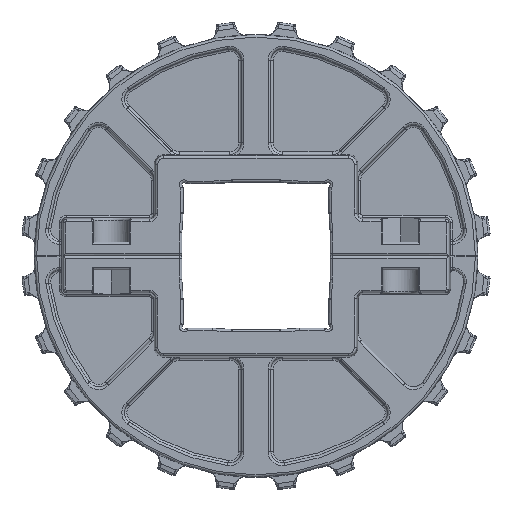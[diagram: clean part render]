
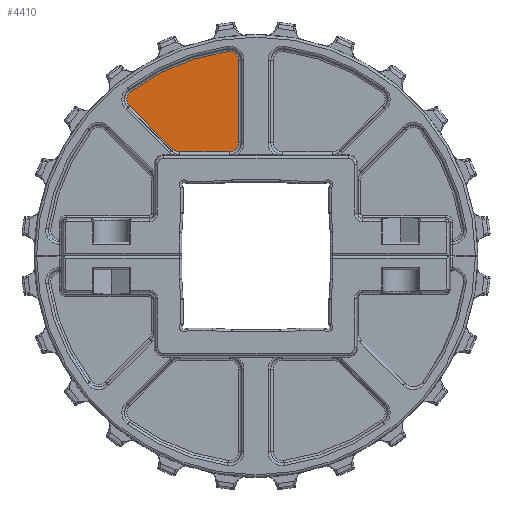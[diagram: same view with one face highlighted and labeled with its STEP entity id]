
A CAD part, top view. The second image highlights one B-rep face of the part: STEP entity #4410.
In plain terms, the highlighted planar face has unit normal (0, 0, 1).
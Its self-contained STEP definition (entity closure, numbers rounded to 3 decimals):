
#2308=FACE_OUTER_BOUND('',#8895,.T.);
#4410=ADVANCED_FACE('',(#2308),#6016,.T.);
#6016=PLANE('',#25968);
#6482=LINE('',#37151,#7718);
#6483=LINE('',#37160,#7719);
#6484=LINE('',#37164,#7720);
#7718=VECTOR('',#29365,1.);
#7719=VECTOR('',#29372,1.);
#7720=VECTOR('',#29375,1.);
#8895=EDGE_LOOP('',(#10991,#10992,#10993,#10994,#10995,#10996,#10997,#10998));
#10991=ORIENTED_EDGE('',*,*,#20922,.T.);
#10992=ORIENTED_EDGE('',*,*,#20923,.T.);
#10993=ORIENTED_EDGE('',*,*,#20924,.T.);
#10994=ORIENTED_EDGE('',*,*,#20925,.T.);
#10995=ORIENTED_EDGE('',*,*,#20926,.T.);
#10996=ORIENTED_EDGE('',*,*,#20927,.T.);
#10997=ORIENTED_EDGE('',*,*,#20928,.T.);
#10998=ORIENTED_EDGE('',*,*,#20929,.T.);
#18589=VERTEX_POINT('',#37152);
#18590=VERTEX_POINT('',#37153);
#18591=VERTEX_POINT('',#37155);
#18592=VERTEX_POINT('',#37157);
#18593=VERTEX_POINT('',#37159);
#18594=VERTEX_POINT('',#37161);
#18595=VERTEX_POINT('',#37163);
#18596=VERTEX_POINT('',#37165);
#20922=EDGE_CURVE('',#18589,#18590,#6482,.T.);
#20923=EDGE_CURVE('',#18590,#18591,#24516,.T.);
#20924=EDGE_CURVE('',#18591,#18592,#24517,.T.);
#20925=EDGE_CURVE('',#18592,#18593,#24518,.T.);
#20926=EDGE_CURVE('',#18593,#18594,#6483,.T.);
#20927=EDGE_CURVE('',#18594,#18595,#24519,.T.);
#20928=EDGE_CURVE('',#18595,#18596,#6484,.T.);
#20929=EDGE_CURVE('',#18596,#18589,#24520,.T.);
#24516=CIRCLE('',#25963,3.86);
#24517=CIRCLE('',#25964,85.86);
#24518=CIRCLE('',#25965,3.86);
#24519=CIRCLE('',#25966,3.86);
#24520=CIRCLE('',#25967,3.86);
#25963=AXIS2_PLACEMENT_3D('',#37154,#29366,#29367);
#25964=AXIS2_PLACEMENT_3D('',#37156,#29368,#29369);
#25965=AXIS2_PLACEMENT_3D('',#37158,#29370,#29371);
#25966=AXIS2_PLACEMENT_3D('',#37162,#29373,#29374);
#25967=AXIS2_PLACEMENT_3D('',#37166,#29376,#29377);
#25968=AXIS2_PLACEMENT_3D('',#37167,#29378,#29379);
#29365=DIRECTION('',(0.,1.,0.));
#29366=DIRECTION('',(0.,0.,1.));
#29367=DIRECTION('',(1.,0.,0.));
#29368=DIRECTION('',(0.,0.,1.));
#29369=DIRECTION('',(1.,0.,0.));
#29370=DIRECTION('',(0.,0.,1.));
#29371=DIRECTION('',(1.,0.,0.));
#29372=DIRECTION('',(0.707,-0.707,0.));
#29373=DIRECTION('',(0.,0.,1.));
#29374=DIRECTION('',(1.,0.,0.));
#29375=DIRECTION('',(1.,0.,0.));
#29376=DIRECTION('',(0.,0.,1.));
#29377=DIRECTION('',(1.,0.,0.));
#29378=DIRECTION('',(0.,0.,1.));
#29379=DIRECTION('',(1.,0.,0.));
#37151=CARTESIAN_POINT('',(432.166,-307.938,-20.));
#37152=CARTESIAN_POINT('',(432.166,-307.938,-20.));
#37153=CARTESIAN_POINT('',(432.166,-273.929,-20.));
#37154=CARTESIAN_POINT('',(428.307,-273.929,-20.));
#37155=CARTESIAN_POINT('',(427.789,-270.104,-20.));
#37156=CARTESIAN_POINT('',(439.307,-355.188,-20.));
#37157=CARTESIAN_POINT('',(387.288,-286.881,-20.));
#37158=CARTESIAN_POINT('',(389.626,-289.951,-20.));
#37159=CARTESIAN_POINT('',(386.897,-292.68,-20.));
#37160=CARTESIAN_POINT('',(415.231,-321.014,-20.));
#37161=CARTESIAN_POINT('',(404.884,-310.667,-20.));
#37162=CARTESIAN_POINT('',(407.613,-307.938,-20.));
#37163=CARTESIAN_POINT('',(407.613,-311.798,-20.));
#37164=CARTESIAN_POINT('',(428.307,-311.798,-20.));
#37165=CARTESIAN_POINT('',(428.307,-311.798,-20.));
#37166=CARTESIAN_POINT('',(428.307,-307.938,-20.));
#37167=CARTESIAN_POINT('',(428.307,-307.938,-20.));
